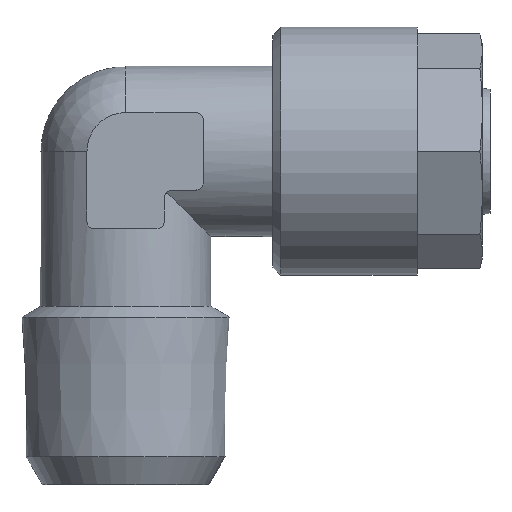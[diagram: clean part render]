
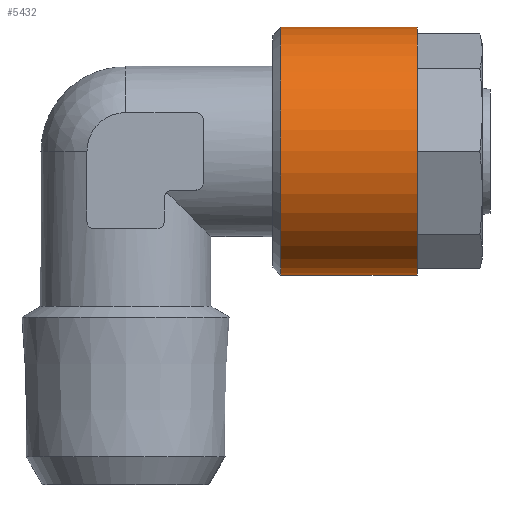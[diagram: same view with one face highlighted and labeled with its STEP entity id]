
A CAD part, front view. The second image highlights one B-rep face of the part: STEP entity #5432.
In plain terms, the highlighted cylindrical face has radius 8 mm (diameter 16 mm), a full revolution.
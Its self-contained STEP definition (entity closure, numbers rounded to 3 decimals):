
#2131=ORIENTED_EDGE('',*,*,#2463,.F.);
#2132=ORIENTED_EDGE('',*,*,#2464,.T.);
#2196=CIRCLE('',#5325,8.);
#2197=CIRCLE('',#5327,8.);
#2306=VERTEX_POINT('',#5158);
#2307=VERTEX_POINT('',#5161);
#2463=EDGE_CURVE('',#2306,#2306,#2196,.T.);
#2464=EDGE_CURVE('',#2307,#2307,#2197,.T.);
#2566=EDGE_LOOP('',(#2131));
#2567=EDGE_LOOP('',(#2132));
#2675=FACE_BOUND('',#2566,.T.);
#2676=FACE_BOUND('',#2567,.T.);
#3049=DIRECTION('',(0.,1.,0.));
#3050=DIRECTION('',(0.,0.,-8.));
#3051=DIRECTION('',(0.,1.,0.));
#3052=DIRECTION('',(1.,0.,0.));
#3053=DIRECTION('',(0.,1.,0.));
#3054=DIRECTION('',(0.,0.,8.));
#5158=CARTESIAN_POINT('',(26.989,23.895,-8.));
#5159=CARTESIAN_POINT('',(26.989,23.895,0.));
#5160=CARTESIAN_POINT('',(26.989,15.095,0.));
#5161=CARTESIAN_POINT('',(26.989,15.095,8.));
#5162=CARTESIAN_POINT('',(26.989,15.095,0.));
#5325=AXIS2_PLACEMENT_3D('',#5159,#3049,#3050);
#5326=AXIS2_PLACEMENT_3D('',#5160,#3051,#3052);
#5327=AXIS2_PLACEMENT_3D('',#5162,#3053,#3054);
#5357=CYLINDRICAL_SURFACE('',#5326,8.);
#5432=ADVANCED_FACE('',(#2675,#2676),#5357,.T.);
